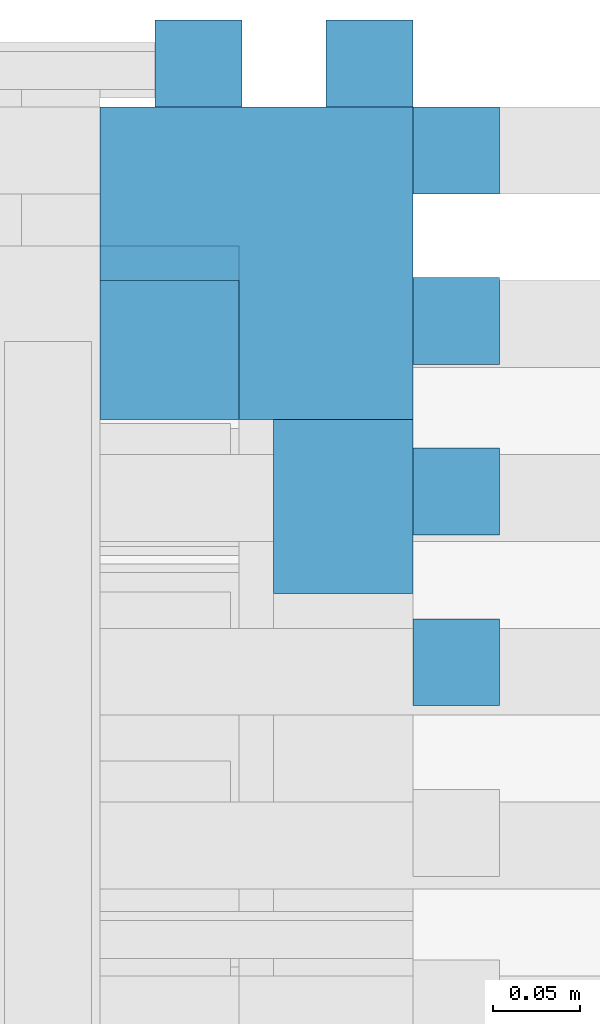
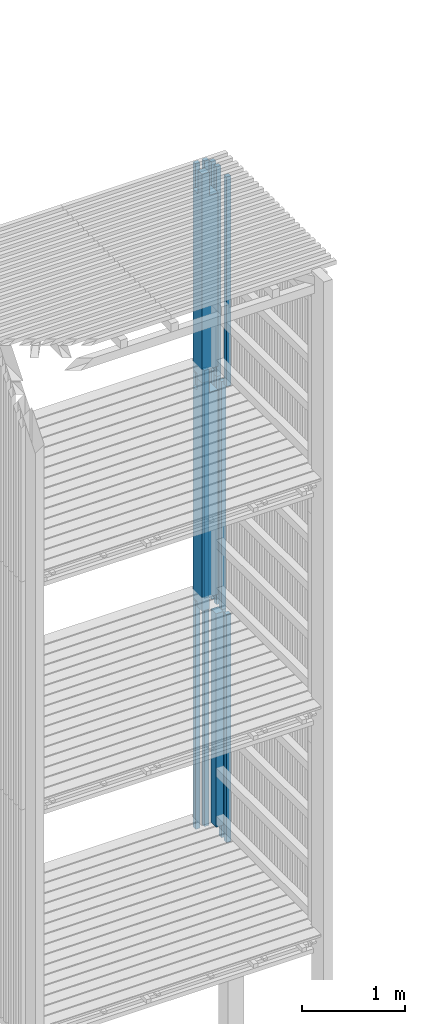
# One storey, part 159 of 182: 17 beams.
"""IFC2X3 building model written with IfcOpenShell, lengths in metres."""

from ifc_helpers import new_model, si_unit, frame, origin, place, context, project, spatial, faceted_brep, element, save


model = new_model("IFC2X3")

# Units and contexts
model_context = context("Model", 3, precision=1e-06, world=origin())
ifc_project = project(units=[si_unit("LENGTHUNIT", "METRE"), si_unit("PLANEANGLEUNIT", "RADIAN")], contexts=[model_context])

# Site, building, storey
site = spatial("IfcSite", under=ifc_project, CompositionType="ELEMENT")
building = spatial("IfcBuilding", under=site, CompositionType="ELEMENT")
storey = spatial("IfcBuildingStorey", under=building, Name="vs", CompositionType="ELEMENT", Elevation=-0.85)

# Beams
placement = place(None, origin())
beam_1_placement = place(placement, frame((36.35999999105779, 12.895077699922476, 5.274999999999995), z_axis=(0.0, -1.0, 0.0), x_axis=(0.0, 0.0, 1.0)))
element("IfcBeam", 1, at=beam_1_placement, inside=storey, Name="Bardage", context=model_context, shape_type="Brep", body=[
    faceted_brep([(2.699999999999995, 0.025000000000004, 0.025000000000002), (2.699999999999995, -0.025000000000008, 0.025000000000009), (2.699999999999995, -0.025000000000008, -0.024999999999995), (2.699999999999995, 0.02499999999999, -0.025000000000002), (1e-15, 0.025000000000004, 0.025000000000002), (2.699999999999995, 0.025000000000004, 0.025000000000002), (2.699999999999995, 0.02499999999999, -0.025000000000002), (1e-15, 0.02499999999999, -0.025000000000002), (1e-15, -0.025000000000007, 0.025000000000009), (1e-15, 0.025000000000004, 0.025000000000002), (1e-15, 0.02499999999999, -0.025000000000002), (1e-15, -0.025000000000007, -0.024999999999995), (1e-15, 0.025000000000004, 0.025000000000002), (1e-15, -0.025000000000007, 0.025000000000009), (2.699999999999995, -0.025000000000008, 0.025000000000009), (2.699999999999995, 0.025000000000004, 0.025000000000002), (1e-15, -0.025000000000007, 0.025000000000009), (1e-15, -0.025000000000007, -0.024999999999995), (2.699999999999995, -0.025000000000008, -0.024999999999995), (2.699999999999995, -0.025000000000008, 0.025000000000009), (1e-15, -0.025000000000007, -0.024999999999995), (1e-15, 0.02499999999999, -0.025000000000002), (2.699999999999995, 0.02499999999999, -0.025000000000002), (2.699999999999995, -0.025000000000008, -0.024999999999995)], [[[0, 1, 2, 3]], [[4, 5, 6, 7]], [[8, 9, 10, 11]], [[12, 13, 14, 15]], [[16, 17, 18, 19]], [[20, 21, 22, 23]]]),
])
beam_2_placement = place(placement, frame((36.40999999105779, 12.550532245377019, 7.974999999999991), z_axis=(-1.0, 0.0, 0.0), x_axis=(0.0, 0.0, 1.0)))
element("IfcBeam", 2, at=beam_2_placement, inside=storey, Name="Bardage", context=model_context, shape_type="Brep", body=[
    faceted_brep([(2.479999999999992, -0.025000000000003, 0.024999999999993), (2.479999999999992, -0.025000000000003, -0.025000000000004), (2.479999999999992, 0.024999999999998, -0.025000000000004), (2.479999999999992, 0.024999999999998, 0.024999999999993), (0.0, 0.024999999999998, 0.024999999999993), (0.0, -0.025000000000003, 0.024999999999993), (2.479999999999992, -0.025000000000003, 0.024999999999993), (2.479999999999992, 0.024999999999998, 0.024999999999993), (0.0, -0.025000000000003, 0.024999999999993), (0.0, 0.024999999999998, 0.024999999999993), (0.0, 0.024999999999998, -0.025000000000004), (0.0, -0.025000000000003, -0.025000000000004), (0.0, 0.024999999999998, -0.025000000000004), (0.0, 0.024999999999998, 0.024999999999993), (2.479999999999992, 0.024999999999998, 0.024999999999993), (2.479999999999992, 0.024999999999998, -0.025000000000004), (0.0, -0.025000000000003, -0.025000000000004), (0.0, 0.024999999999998, -0.025000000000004), (2.479999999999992, 0.024999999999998, -0.025000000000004), (2.479999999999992, -0.025000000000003, -0.025000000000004), (2.479999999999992, -0.025000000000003, 0.024999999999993), (0.0, -0.025000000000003, 0.024999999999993), (0.0, -0.025000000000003, -0.025000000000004), (2.479999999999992, -0.025000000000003, -0.025000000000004)], [[[0, 1, 2, 3]], [[4, 5, 6, 7]], [[8, 9, 10, 11]], [[12, 13, 14, 15]], [[16, 17, 18, 19]], [[20, 21, 22, 23]]]),
])
beam_3_placement = place(placement, frame((36.40999999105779, 12.648714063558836, 2.575000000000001), z_axis=(-1.0, 0.0, 0.0), x_axis=(0.0, 0.0, 1.0)))
element("IfcBeam", 3, at=beam_3_placement, inside=storey, Name="Bardage", context=model_context, shape_type="Brep", body=[
    faceted_brep([(0.0, -0.025000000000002, 0.024999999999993), (0.0, 0.024999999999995, 0.024999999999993), (0.0, 0.024999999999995, -0.025000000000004), (0.0, -0.025000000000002, -0.025000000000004), (2.699961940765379, 0.024999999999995, -0.025000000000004), (2.699961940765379, 0.024999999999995, 0.024999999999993), (2.699961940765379, -0.025000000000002, 0.024999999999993), (2.699961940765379, -0.025000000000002, -0.025000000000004), (0.0, -0.025000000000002, -0.025000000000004), (0.0, 0.024999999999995, -0.025000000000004), (2.699961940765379, 0.024999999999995, -0.025000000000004), (2.699961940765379, -0.025000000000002, -0.025000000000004), (2.699961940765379, 0.024999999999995, -0.025000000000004), (0.0, 0.024999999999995, -0.025000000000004), (0.0, 0.024999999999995, 0.024999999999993), (2.699961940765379, 0.024999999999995, 0.024999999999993), (2.699961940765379, 0.024999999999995, 0.024999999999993), (0.0, 0.024999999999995, 0.024999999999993), (0.0, -0.025000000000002, 0.024999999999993), (2.699961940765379, -0.025000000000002, 0.024999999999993), (2.699961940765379, -0.025000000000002, 0.024999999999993), (0.0, -0.025000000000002, 0.024999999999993), (0.0, -0.025000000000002, -0.025000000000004), (2.699961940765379, -0.025000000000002, -0.025000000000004)], [[[0, 1, 2, 3]], [[4, 5, 6, 7]], [[8, 9, 10, 11]], [[12, 13, 14, 15]], [[16, 17, 18, 19]], [[20, 21, 22, 23]]]),
])
beam_4_placement = place(placement, frame((36.344999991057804, 12.640077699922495, 2.746999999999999), z_axis=(0.0, -1.0, 0.0), x_axis=(0.0, 0.0, 1.0)))
element("IfcBeam", 4, at=beam_4_placement, inside=storey, Name="Support bardage", context=model_context, shape_type="Brep", body=[
    faceted_brep([(2.527961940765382, -0.039999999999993, -0.05), (2.527961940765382, 0.04000000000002, -0.05), (2.527961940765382, 0.04000000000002, 0.050000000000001), (2.527961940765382, -0.039999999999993, 0.050000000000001), (0.0, -0.039999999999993, 0.050000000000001), (0.0, -0.039999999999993, -0.05), (2.527961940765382, -0.039999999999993, -0.05), (2.527961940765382, -0.039999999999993, 0.050000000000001), (0.0, -0.039999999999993, -0.05), (0.0, -0.039999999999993, 0.050000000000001), (0.0, 0.04000000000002, 0.050000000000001), (0.0, 0.04000000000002, -0.05), (2.527961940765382, -0.039999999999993, -0.05), (0.0, -0.039999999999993, -0.05), (0.0, 0.04000000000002, -0.05), (2.527961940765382, 0.04000000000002, -0.05), (2.527961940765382, 0.04000000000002, -0.05), (0.0, 0.04000000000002, -0.05), (0.0, 0.04000000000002, 0.050000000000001), (2.527961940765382, 0.04000000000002, 0.050000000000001), (2.527961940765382, 0.04000000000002, 0.050000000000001), (0.0, 0.04000000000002, 0.050000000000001), (0.0, -0.039999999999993, 0.050000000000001), (2.527961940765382, -0.039999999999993, 0.050000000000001)], [[[0, 1, 2, 3]], [[4, 5, 6, 7]], [[8, 9, 10, 11]], [[12, 13, 14, 15]], [[16, 17, 18, 19]], [[20, 21, 22, 23]]]),
])
beam_5_placement = place(placement, frame((36.40999999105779, 12.845077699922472, 7.974999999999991), z_axis=(-1.0, 0.0, 0.0), x_axis=(0.0, 0.0, 1.0)))
element("IfcBeam", 5, at=beam_5_placement, inside=storey, Name="Bardage", context=model_context, shape_type="Brep", body=[
    faceted_brep([(2.479999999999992, -0.025000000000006, 0.024999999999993), (2.479999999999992, -0.025000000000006, -0.025000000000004), (2.479999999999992, 0.024999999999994, -0.025000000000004), (2.479999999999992, 0.024999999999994, 0.024999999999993), (0.0, 0.024999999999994, 0.024999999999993), (0.0, -0.025000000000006, 0.024999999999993), (2.479999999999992, -0.025000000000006, 0.024999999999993), (2.479999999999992, 0.024999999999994, 0.024999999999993), (0.0, -0.025000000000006, 0.024999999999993), (0.0, 0.024999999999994, 0.024999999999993), (0.0, 0.024999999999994, -0.025000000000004), (0.0, -0.025000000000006, -0.025000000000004), (0.0, 0.024999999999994, -0.025000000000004), (0.0, 0.024999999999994, 0.024999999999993), (2.479999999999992, 0.024999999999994, 0.024999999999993), (2.479999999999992, 0.024999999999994, -0.025000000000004), (0.0, -0.025000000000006, -0.025000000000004), (0.0, 0.024999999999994, -0.025000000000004), (2.479999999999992, 0.024999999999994, -0.025000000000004), (2.479999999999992, -0.025000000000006, -0.025000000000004), (2.479999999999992, -0.025000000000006, 0.024999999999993), (0.0, -0.025000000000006, 0.024999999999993), (0.0, -0.025000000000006, -0.025000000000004), (2.479999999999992, -0.025000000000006, -0.025000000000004)], [[[0, 1, 2, 3]], [[4, 5, 6, 7]], [[8, 9, 10, 11]], [[12, 13, 14, 15]], [[16, 17, 18, 19]], [[20, 21, 22, 23]]]),
])
beam_6_placement = place(placement, frame((36.261818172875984, 12.895077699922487, 7.974999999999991), z_axis=(0.0, -1.0, 0.0), x_axis=(0.0, 0.0, 1.0)))
element("IfcBeam", 6, at=beam_6_placement, inside=storey, Name="Bardage", context=model_context, shape_type="Brep", body=[
    faceted_brep([(0.0, -0.024999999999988, 0.025000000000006), (0.0, 0.025000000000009, 0.024999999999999), (0.0, 0.024999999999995, -0.025000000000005), (0.0, -0.025000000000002, -0.024999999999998), (2.479999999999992, 0.024999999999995, -0.025000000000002), (2.479999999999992, 0.025000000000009, 0.024999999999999), (2.479999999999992, -0.024999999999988, 0.025000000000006), (2.479999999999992, -0.025000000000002, -0.024999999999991), (0.0, 0.025000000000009, 0.024999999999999), (0.0, -0.024999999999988, 0.025000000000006), (2.479999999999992, -0.024999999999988, 0.025000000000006), (2.479999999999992, 0.025000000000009, 0.024999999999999), (0.0, 0.024999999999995, -0.025000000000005), (0.0, 0.025000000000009, 0.024999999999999), (2.479999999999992, 0.025000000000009, 0.024999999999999), (2.479999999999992, 0.024999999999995, -0.025000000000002), (0.0, -0.025000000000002, -0.024999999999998), (0.0, 0.024999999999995, -0.025000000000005), (2.479999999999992, 0.024999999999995, -0.025000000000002), (2.479999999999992, -0.025000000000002, -0.024999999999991), (2.479999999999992, -0.024999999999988, 0.025000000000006), (0.0, -0.024999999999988, 0.025000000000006), (0.0, -0.025000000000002, -0.024999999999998), (2.479999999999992, -0.025000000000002, -0.024999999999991)], [[[0, 1, 2, 3]], [[4, 5, 6, 7]], [[8, 9, 10, 11]], [[12, 13, 14, 15]], [[16, 17, 18, 19]], [[20, 21, 22, 23]]]),
])
beam_7_placement = place(placement, frame((36.40999999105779, 12.74689588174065, 5.274999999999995), z_axis=(-1.0, 0.0, 0.0), x_axis=(0.0, 0.0, 1.0)))
element("IfcBeam", 7, at=beam_7_placement, inside=storey, Name="Bardage", context=model_context, shape_type="Brep", body=[
    faceted_brep([(1e-15, -0.025000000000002, 0.024999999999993), (1e-15, 0.024999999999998, 0.024999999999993), (1e-15, 0.024999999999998, -0.025000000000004), (1e-15, -0.025000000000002, -0.025000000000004), (2.699999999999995, -0.025000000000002, -0.025000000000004), (2.699999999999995, 0.025000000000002, -0.025000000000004), (2.699999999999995, 0.025000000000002, 0.024999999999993), (2.699999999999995, -0.025000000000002, 0.024999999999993), (1e-15, -0.025000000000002, 0.024999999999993), (1e-15, -0.025000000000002, -0.025000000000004), (2.699999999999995, -0.025000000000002, -0.025000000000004), (2.699999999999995, -0.025000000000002, 0.024999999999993), (2.699999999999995, -0.025000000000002, -0.025000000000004), (1e-15, -0.025000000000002, -0.025000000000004), (1e-15, 0.024999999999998, -0.025000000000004), (2.699999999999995, 0.025000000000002, -0.025000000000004), (2.699999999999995, 0.025000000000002, -0.025000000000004), (1e-15, 0.024999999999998, -0.025000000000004), (1e-15, 0.024999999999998, 0.024999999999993), (2.699999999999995, 0.025000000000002, 0.024999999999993), (2.699999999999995, 0.025000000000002, 0.024999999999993), (1e-15, 0.024999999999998, 0.024999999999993), (1e-15, -0.025000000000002, 0.024999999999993), (2.699999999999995, -0.025000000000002, 0.024999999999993)], [[[0, 1, 2, 3]], [[4, 5, 6, 7]], [[8, 9, 10, 11]], [[12, 13, 14, 15]], [[16, 17, 18, 19]], [[20, 21, 22, 23]]]),
])
beam_8_placement = place(placement, frame((36.35999999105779, 12.895077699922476, 2.575000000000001), z_axis=(0.0, -1.0, 0.0), x_axis=(0.0, 0.0, 1.0)))
element("IfcBeam", 8, at=beam_8_placement, inside=storey, Name="Bardage", context=model_context, shape_type="Brep", body=[
    faceted_brep([(2.699961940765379, -0.025000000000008, 0.025000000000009), (2.699961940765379, -0.025000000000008, -0.024999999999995), (2.699961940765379, 0.02499999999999, -0.025000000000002), (2.699961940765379, 0.025000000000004, 0.025000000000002), (0.0, -0.025000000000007, 0.025000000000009), (2.699961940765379, -0.025000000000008, 0.025000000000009), (2.699961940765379, 0.025000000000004, 0.025000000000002), (0.0, 0.025000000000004, 0.025000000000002), (0.0, -0.025000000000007, 0.025000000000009), (0.0, 0.025000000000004, 0.025000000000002), (0.0, 0.02499999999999, -0.025000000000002), (0.0, -0.025000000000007, -0.024999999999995), (0.0, -0.025000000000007, 0.025000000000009), (0.0, -0.025000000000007, -0.024999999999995), (2.699961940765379, -0.025000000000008, -0.024999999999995), (2.699961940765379, -0.025000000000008, 0.025000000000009), (0.0, -0.025000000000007, -0.024999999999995), (0.0, 0.02499999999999, -0.025000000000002), (2.699961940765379, 0.02499999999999, -0.025000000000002), (2.699961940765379, -0.025000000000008, -0.024999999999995), (0.0, 0.02499999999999, -0.025000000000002), (0.0, 0.025000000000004, 0.025000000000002), (2.699961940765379, 0.025000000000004, 0.025000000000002), (2.699961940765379, 0.02499999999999, -0.025000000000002)], [[[0, 1, 2, 3]], [[4, 5, 6, 7]], [[8, 9, 10, 11]], [[12, 13, 14, 15]], [[16, 17, 18, 19]], [[20, 21, 22, 23]]]),
])
beam_9_placement = place(placement, frame((36.40999999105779, 12.845077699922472, 5.274999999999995), z_axis=(-1.0, 0.0, 0.0), x_axis=(0.0, 0.0, 1.0)))
element("IfcBeam", 9, at=beam_9_placement, inside=storey, Name="Bardage", context=model_context, shape_type="Brep", body=[
    faceted_brep([(1e-15, -0.025000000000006, 0.024999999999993), (1e-15, 0.024999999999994, 0.024999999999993), (1e-15, 0.024999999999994, -0.025000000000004), (1e-15, -0.025000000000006, -0.025000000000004), (2.699999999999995, -0.025000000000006, -0.025000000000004), (2.699999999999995, 0.024999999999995, -0.025000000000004), (2.699999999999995, 0.024999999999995, 0.024999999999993), (2.699999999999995, -0.025000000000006, 0.024999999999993), (1e-15, -0.025000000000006, 0.024999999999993), (1e-15, -0.025000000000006, -0.025000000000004), (2.699999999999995, -0.025000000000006, -0.025000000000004), (2.699999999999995, -0.025000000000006, 0.024999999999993), (2.699999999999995, -0.025000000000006, -0.025000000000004), (1e-15, -0.025000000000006, -0.025000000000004), (1e-15, 0.024999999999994, -0.025000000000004), (2.699999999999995, 0.024999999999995, -0.025000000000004), (2.699999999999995, 0.024999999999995, -0.025000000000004), (1e-15, 0.024999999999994, -0.025000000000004), (1e-15, 0.024999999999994, 0.024999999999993), (2.699999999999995, 0.024999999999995, 0.024999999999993), (2.699999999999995, 0.024999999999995, 0.024999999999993), (1e-15, 0.024999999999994, 0.024999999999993), (1e-15, -0.025000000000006, 0.024999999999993), (2.699999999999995, -0.025000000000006, 0.024999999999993)], [[[0, 1, 2, 3]], [[4, 5, 6, 7]], [[8, 9, 10, 11]], [[12, 13, 14, 15]], [[16, 17, 18, 19]], [[20, 21, 22, 23]]]),
])
beam_10_placement = place(placement, frame((36.40999999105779, 12.74689588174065, 7.974999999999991), z_axis=(-1.0, 0.0, 0.0), x_axis=(0.0, 0.0, 1.0)))
element("IfcBeam", 10, at=beam_10_placement, inside=storey, Name="Bardage", context=model_context, shape_type="Brep", body=[
    faceted_brep([(2.479999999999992, -0.025000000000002, 0.024999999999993), (2.479999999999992, -0.025000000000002, -0.025000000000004), (2.479999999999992, 0.025000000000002, -0.025000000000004), (2.479999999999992, 0.025000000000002, 0.024999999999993), (0.0, 0.024999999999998, 0.024999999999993), (0.0, -0.025000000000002, 0.024999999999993), (2.479999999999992, -0.025000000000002, 0.024999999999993), (2.479999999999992, 0.025000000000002, 0.024999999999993), (0.0, -0.025000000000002, 0.024999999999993), (0.0, 0.024999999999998, 0.024999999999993), (0.0, 0.024999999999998, -0.025000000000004), (0.0, -0.025000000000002, -0.025000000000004), (0.0, 0.024999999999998, -0.025000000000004), (0.0, 0.024999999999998, 0.024999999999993), (2.479999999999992, 0.025000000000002, 0.024999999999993), (2.479999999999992, 0.025000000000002, -0.025000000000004), (0.0, -0.025000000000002, -0.025000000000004), (0.0, 0.024999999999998, -0.025000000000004), (2.479999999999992, 0.025000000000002, -0.025000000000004), (2.479999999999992, -0.025000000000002, -0.025000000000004), (2.479999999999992, -0.025000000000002, 0.024999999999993), (0.0, -0.025000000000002, 0.024999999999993), (0.0, -0.025000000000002, -0.025000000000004), (2.479999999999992, -0.025000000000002, -0.025000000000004)], [[[0, 1, 2, 3]], [[4, 5, 6, 7]], [[8, 9, 10, 11]], [[12, 13, 14, 15]], [[16, 17, 18, 19]], [[20, 21, 22, 23]]]),
])
beam_11_placement = place(placement, frame((36.261818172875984, 12.895077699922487, 5.274999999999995), z_axis=(0.0, -1.0, 0.0), x_axis=(0.0, 0.0, 1.0)))
element("IfcBeam", 11, at=beam_11_placement, inside=storey, Name="Bardage", context=model_context, shape_type="Brep", body=[
    faceted_brep([(2.699999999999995, 0.025000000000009, 0.024999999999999), (2.699999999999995, -0.024999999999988, 0.025000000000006), (2.699999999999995, -0.025000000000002, -0.024999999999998), (2.699999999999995, 0.024999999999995, -0.025000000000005), (1e-15, 0.025000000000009, 0.024999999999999), (2.699999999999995, 0.025000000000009, 0.024999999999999), (2.699999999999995, 0.024999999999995, -0.025000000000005), (1e-15, 0.024999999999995, -0.025000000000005), (1e-15, -0.024999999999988, 0.025000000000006), (1e-15, 0.025000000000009, 0.024999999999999), (1e-15, 0.024999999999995, -0.025000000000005), (1e-15, -0.025000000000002, -0.024999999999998), (1e-15, 0.025000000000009, 0.024999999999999), (1e-15, -0.024999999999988, 0.025000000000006), (2.699999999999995, -0.024999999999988, 0.025000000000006), (2.699999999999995, 0.025000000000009, 0.024999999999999), (1e-15, -0.024999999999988, 0.025000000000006), (1e-15, -0.025000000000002, -0.024999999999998), (2.699999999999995, -0.025000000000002, -0.024999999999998), (2.699999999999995, -0.024999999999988, 0.025000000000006), (1e-15, -0.025000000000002, -0.024999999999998), (1e-15, 0.024999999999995, -0.025000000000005), (2.699999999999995, 0.024999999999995, -0.025000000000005), (2.699999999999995, -0.025000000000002, -0.024999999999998)], [[[0, 1, 2, 3]], [[4, 5, 6, 7]], [[8, 9, 10, 11]], [[12, 13, 14, 15]], [[16, 17, 18, 19]], [[20, 21, 22, 23]]]),
])
beam_12_placement = place(placement, frame((36.29499999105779, 12.78007769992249, 5.279999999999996), z_axis=(0.0, -1.0, 0.0), x_axis=(0.0, 0.0, 1.0)))
element("IfcBeam", 12, at=beam_12_placement, inside=storey, Name="Poteau", context=model_context, shape_type="Brep", body=[
    faceted_brep([(0.139999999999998, -0.09, 0.089999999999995), (0.139999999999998, 0.009999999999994, 0.089999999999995), (0.139999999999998, 0.009999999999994, -0.090000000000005), (0.139999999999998, -0.09, -0.090000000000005), (0.059999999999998, 0.090000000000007, -0.010000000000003), (0.059999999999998, 0.009999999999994, -0.009999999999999), (-1e-15, 0.009999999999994, -0.009999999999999), (-1e-15, 0.090000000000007, -0.009999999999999), (-1e-15, 0.090000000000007, 0.089999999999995), (-1e-15, 0.090000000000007, -0.009999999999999), (-1e-15, 0.009999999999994, -0.009999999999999), (-1e-15, 0.009999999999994, 0.089999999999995), (0.139999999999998, 0.009999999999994, -0.090000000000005), (0.139999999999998, 0.009999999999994, 0.089999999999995), (-1e-15, 0.009999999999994, 0.089999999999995), (-1e-15, 0.009999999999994, -0.009999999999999), (0.059999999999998, 0.009999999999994, -0.009999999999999), (0.059999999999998, 0.009999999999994, -0.090000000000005), (0.059999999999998, 0.009999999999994, -0.090000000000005), (0.059999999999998, 0.009999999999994, -0.009999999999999), (0.059999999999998, 0.090000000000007, -0.010000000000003), (0.059999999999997, 0.090000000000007, -0.090000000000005), (0.139999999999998, -0.09, -0.090000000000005), (0.139999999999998, 0.009999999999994, -0.090000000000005), (0.059999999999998, 0.009999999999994, -0.090000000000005), (0.059999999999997, 0.090000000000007, -0.090000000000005), (2.559999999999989, 0.090000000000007, -0.090000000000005), (2.559999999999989, -0.09, -0.090000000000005), (2.559999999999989, -0.09, 0.089999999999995), (0.139999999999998, -0.09, 0.089999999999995), (0.139999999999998, -0.09, -0.090000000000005), (2.559999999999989, -0.09, -0.090000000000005), (2.559999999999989, 0.090000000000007, -0.010000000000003), (2.559999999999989, 0.090000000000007, -0.090000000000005), (0.059999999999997, 0.090000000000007, -0.090000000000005), (0.059999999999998, 0.090000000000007, -0.010000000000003), (-1e-15, 0.090000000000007, -0.009999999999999), (-1e-15, 0.090000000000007, 0.089999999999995), (2.69999999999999, 0.090000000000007, 0.089999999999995), (2.69999999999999, 0.090000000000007, -0.009999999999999), (2.69999999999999, 0.009999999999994, 0.089999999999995), (2.69999999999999, 0.090000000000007, 0.089999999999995), (-1e-15, 0.090000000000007, 0.089999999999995), (-1e-15, 0.009999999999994, 0.089999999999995), (0.139999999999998, 0.009999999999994, 0.089999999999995), (0.139999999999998, -0.09, 0.089999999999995), (2.559999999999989, -0.09, 0.089999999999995), (2.559999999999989, 0.009999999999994, 0.089999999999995), (2.559999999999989, 0.090000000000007, -0.010000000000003), (2.69999999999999, 0.090000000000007, -0.009999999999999), (2.69999999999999, 0.009999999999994, -0.010000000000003), (2.559999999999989, 0.009999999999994, -0.010000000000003), (2.559999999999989, 0.009999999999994, 0.089999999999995), (2.559999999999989, -0.09, 0.089999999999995), (2.559999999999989, -0.09, -0.090000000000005), (2.559999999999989, 0.090000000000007, -0.090000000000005), (2.559999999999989, 0.090000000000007, -0.010000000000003), (2.559999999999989, 0.009999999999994, -0.010000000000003), (2.69999999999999, 0.009999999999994, 0.089999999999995), (2.559999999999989, 0.009999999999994, 0.089999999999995), (2.559999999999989, 0.009999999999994, -0.010000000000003), (2.69999999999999, 0.009999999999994, -0.010000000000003), (2.69999999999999, 0.090000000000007, 0.089999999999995), (2.69999999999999, 0.009999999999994, 0.089999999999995), (2.69999999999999, 0.009999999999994, -0.010000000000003), (2.69999999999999, 0.090000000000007, -0.009999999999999)], [[[0, 1, 2, 3]], [[4, 5, 6, 7]], [[8, 9, 10, 11]], [[12, 13, 14, 15, 16, 17]], [[18, 19, 20, 21]], [[22, 23, 24, 25, 26, 27]], [[28, 29, 30, 31]], [[32, 33, 34, 35, 36, 37, 38, 39]], [[40, 41, 42, 43, 44, 45, 46, 47]], [[48, 49, 50, 51]], [[52, 53, 54, 55, 56, 57]], [[58, 59, 60, 61]], [[62, 63, 64, 65]]]),
])
beam_13_placement = place(placement, frame((36.35999999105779, 12.895077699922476, 7.974999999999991), z_axis=(0.0, -1.0, 0.0), x_axis=(0.0, 0.0, 1.0)))
element("IfcBeam", 13, at=beam_13_placement, inside=storey, Name="Bardage", context=model_context, shape_type="Brep", body=[
    faceted_brep([(0.0, -0.025000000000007, 0.025000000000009), (0.0, 0.025000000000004, 0.025000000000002), (0.0, 0.02499999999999, -0.025000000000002), (0.0, -0.025000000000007, -0.024999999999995), (2.479999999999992, 0.02499999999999, -0.024999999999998), (2.479999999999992, 0.025000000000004, 0.024999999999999), (2.479999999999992, -0.025000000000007, 0.025000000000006), (2.479999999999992, -0.025000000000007, -0.024999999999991), (0.0, 0.025000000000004, 0.025000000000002), (0.0, -0.025000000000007, 0.025000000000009), (2.479999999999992, -0.025000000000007, 0.025000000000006), (2.479999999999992, 0.025000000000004, 0.024999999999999), (0.0, 0.02499999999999, -0.025000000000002), (0.0, 0.025000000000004, 0.025000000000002), (2.479999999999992, 0.025000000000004, 0.024999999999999), (2.479999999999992, 0.02499999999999, -0.024999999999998), (0.0, -0.025000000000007, -0.024999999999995), (0.0, 0.02499999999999, -0.025000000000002), (2.479999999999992, 0.02499999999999, -0.024999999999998), (2.479999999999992, -0.025000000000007, -0.024999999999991), (2.479999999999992, -0.025000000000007, 0.025000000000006), (0.0, -0.025000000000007, 0.025000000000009), (0.0, -0.025000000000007, -0.024999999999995), (2.479999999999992, -0.025000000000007, -0.024999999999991)], [[[0, 1, 2, 3]], [[4, 5, 6, 7]], [[8, 9, 10, 11]], [[12, 13, 14, 15]], [[16, 17, 18, 19]], [[20, 21, 22, 23]]]),
])
beam_14_placement = place(placement, frame((36.40999999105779, 12.550532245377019, 2.575000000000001), z_axis=(-1.0, 0.0, 0.0), x_axis=(0.0, 0.0, 1.0)))
element("IfcBeam", 14, at=beam_14_placement, inside=storey, Name="Bardage", context=model_context, shape_type="Brep", body=[
    faceted_brep([(0.0, -0.025000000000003, 0.024999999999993), (0.0, 0.024999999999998, 0.024999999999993), (0.0, 0.024999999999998, -0.025000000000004), (0.0, -0.025000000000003, -0.025000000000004), (2.699961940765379, 0.024999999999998, -0.025000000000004), (2.699961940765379, 0.024999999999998, 0.024999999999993), (2.699961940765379, -0.025000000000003, 0.024999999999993), (2.699961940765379, -0.025000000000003, -0.025000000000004), (0.0, -0.025000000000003, -0.025000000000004), (0.0, 0.024999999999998, -0.025000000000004), (2.699961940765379, 0.024999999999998, -0.025000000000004), (2.699961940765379, -0.025000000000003, -0.025000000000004), (2.699961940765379, 0.024999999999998, -0.025000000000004), (0.0, 0.024999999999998, -0.025000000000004), (0.0, 0.024999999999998, 0.024999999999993), (2.699961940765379, 0.024999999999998, 0.024999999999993), (2.699961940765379, 0.024999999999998, 0.024999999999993), (0.0, 0.024999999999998, 0.024999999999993), (0.0, -0.025000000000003, 0.024999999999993), (2.699961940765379, -0.025000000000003, 0.024999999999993), (2.699961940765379, -0.025000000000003, 0.024999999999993), (0.0, -0.025000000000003, 0.024999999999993), (0.0, -0.025000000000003, -0.025000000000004), (2.699961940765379, -0.025000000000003, -0.025000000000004)], [[[0, 1, 2, 3]], [[4, 5, 6, 7]], [[8, 9, 10, 11]], [[12, 13, 14, 15]], [[16, 17, 18, 19]], [[20, 21, 22, 23]]]),
])
beam_15_placement = place(placement, frame((36.40999999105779, 12.648714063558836, 5.274999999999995), z_axis=(-1.0, 0.0, 0.0), x_axis=(0.0, 0.0, 1.0)))
element("IfcBeam", 15, at=beam_15_placement, inside=storey, Name="Bardage", context=model_context, shape_type="Brep", body=[
    faceted_brep([(1e-15, -0.025000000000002, 0.024999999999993), (1e-15, 0.024999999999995, 0.024999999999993), (1e-15, 0.024999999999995, -0.025000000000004), (1e-15, -0.025000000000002, -0.025000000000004), (2.699999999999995, -0.025000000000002, -0.025000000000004), (2.699999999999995, 0.024999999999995, -0.025000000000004), (2.699999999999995, 0.024999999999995, 0.024999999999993), (2.699999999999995, -0.025000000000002, 0.024999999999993), (1e-15, -0.025000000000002, 0.024999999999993), (1e-15, -0.025000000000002, -0.025000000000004), (2.699999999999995, -0.025000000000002, -0.025000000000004), (2.699999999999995, -0.025000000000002, 0.024999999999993), (2.699999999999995, -0.025000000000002, -0.025000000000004), (1e-15, -0.025000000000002, -0.025000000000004), (1e-15, 0.024999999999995, -0.025000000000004), (2.699999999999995, 0.024999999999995, -0.025000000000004), (2.699999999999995, 0.024999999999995, -0.025000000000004), (1e-15, 0.024999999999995, -0.025000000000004), (1e-15, 0.024999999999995, 0.024999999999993), (2.699999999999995, 0.024999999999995, 0.024999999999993), (2.699999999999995, 0.024999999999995, 0.024999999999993), (1e-15, 0.024999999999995, 0.024999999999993), (1e-15, -0.025000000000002, 0.024999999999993), (2.699999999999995, -0.025000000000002, 0.024999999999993)], [[[0, 1, 2, 3]], [[4, 5, 6, 7]], [[8, 9, 10, 11]], [[12, 13, 14, 15]], [[16, 17, 18, 19]], [[20, 21, 22, 23]]]),
])
beam_16_placement = place(placement, frame((36.261818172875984, 12.895077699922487, 2.575000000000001), z_axis=(0.0, -1.0, 0.0), x_axis=(0.0, 0.0, 1.0)))
element("IfcBeam", 16, at=beam_16_placement, inside=storey, Name="Bardage", context=model_context, shape_type="Brep", body=[
    faceted_brep([(2.699961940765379, -0.024999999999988, 0.025000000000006), (2.699961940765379, -0.025000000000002, -0.024999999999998), (2.699961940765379, 0.024999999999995, -0.025000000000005), (2.699961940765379, 0.025000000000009, 0.024999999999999), (0.0, -0.024999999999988, 0.025000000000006), (2.699961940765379, -0.024999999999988, 0.025000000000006), (2.699961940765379, 0.025000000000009, 0.024999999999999), (0.0, 0.025000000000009, 0.024999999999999), (0.0, -0.024999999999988, 0.025000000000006), (0.0, 0.025000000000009, 0.024999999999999), (0.0, 0.024999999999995, -0.025000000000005), (0.0, -0.025000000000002, -0.024999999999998), (0.0, -0.024999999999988, 0.025000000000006), (0.0, -0.025000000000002, -0.024999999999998), (2.699961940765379, -0.025000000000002, -0.024999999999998), (2.699961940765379, -0.024999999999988, 0.025000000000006), (0.0, -0.025000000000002, -0.024999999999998), (0.0, 0.024999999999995, -0.025000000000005), (2.699961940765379, 0.024999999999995, -0.025000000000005), (2.699961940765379, -0.025000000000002, -0.024999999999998), (0.0, 0.024999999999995, -0.025000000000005), (0.0, 0.025000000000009, 0.024999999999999), (2.699961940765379, 0.025000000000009, 0.024999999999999), (2.699961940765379, 0.024999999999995, -0.025000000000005)], [[[0, 1, 2, 3]], [[4, 5, 6, 7]], [[8, 9, 10, 11]], [[12, 13, 14, 15]], [[16, 17, 18, 19]], [[20, 21, 22, 23]]]),
])
beam_17_placement = place(placement, frame((36.29499999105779, 12.78007769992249, 7.979999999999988), z_axis=(0.0, -1.0, 0.0), x_axis=(0.0, 0.0, 1.0)))
element("IfcBeam", 17, at=beam_17_placement, inside=storey, Name="Poteau", context=model_context, shape_type="Brep", body=[
    faceted_brep([(2.474999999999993, 0.009999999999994, 0.089999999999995), (2.474999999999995, 0.009999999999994, 0.009999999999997), (2.474999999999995, 0.090000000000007, 0.009999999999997), (2.474999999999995, 0.090000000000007, 0.089999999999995), (2.194999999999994, 0.009999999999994, 0.089999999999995), (2.194999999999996, 0.009999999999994, 0.009999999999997), (2.474999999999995, 0.009999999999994, 0.009999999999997), (2.474999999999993, 0.009999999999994, 0.089999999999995), (2.194999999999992, -0.09, 0.089999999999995), (2.194999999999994, -0.09, -0.090000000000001), (2.194999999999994, 0.090000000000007, -0.090000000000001), (2.194999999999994, 0.090000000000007, 0.009999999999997), (2.194999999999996, 0.009999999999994, 0.009999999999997), (2.194999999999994, 0.009999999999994, 0.089999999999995), (2.474999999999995, 0.090000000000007, 0.009999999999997), (2.474999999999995, 0.009999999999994, 0.009999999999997), (2.194999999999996, 0.009999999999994, 0.009999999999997), (2.194999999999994, 0.090000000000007, 0.009999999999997), (0.059999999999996, 0.090000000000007, -0.010000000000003), (-1e-15, 0.090000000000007, -0.010000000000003), (-1e-15, 0.090000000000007, 0.089999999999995), (2.474999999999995, 0.090000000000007, 0.089999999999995), (2.474999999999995, 0.090000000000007, 0.009999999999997), (2.194999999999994, 0.090000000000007, 0.009999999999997), (2.194999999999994, 0.090000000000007, -0.090000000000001), (0.059999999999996, 0.090000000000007, -0.090000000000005), (0.139999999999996, -0.09, 0.089999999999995), (0.139999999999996, 0.009999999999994, 0.089999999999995), (0.139999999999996, 0.009999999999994, -0.090000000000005), (0.139999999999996, -0.09, -0.090000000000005), (-1e-15, 0.090000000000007, -0.010000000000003), (0.059999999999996, 0.090000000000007, -0.010000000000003), (0.059999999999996, 0.009999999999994, -0.009999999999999), (-1e-15, 0.009999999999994, -0.010000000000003), (-1e-15, 0.090000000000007, 0.089999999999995), (-1e-15, 0.090000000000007, -0.010000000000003), (-1e-15, 0.009999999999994, -0.010000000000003), (-1e-15, 0.009999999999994, 0.089999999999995), (0.139999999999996, 0.009999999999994, -0.090000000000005), (0.139999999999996, 0.009999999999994, 0.089999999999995), (-1e-15, 0.009999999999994, 0.089999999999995), (-1e-15, 0.009999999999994, -0.010000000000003), (0.059999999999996, 0.009999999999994, -0.009999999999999), (0.059999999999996, 0.009999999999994, -0.090000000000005), (0.059999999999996, 0.009999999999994, -0.090000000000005), (0.059999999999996, 0.009999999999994, -0.009999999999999), (0.059999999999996, 0.090000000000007, -0.010000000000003), (0.059999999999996, 0.090000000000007, -0.090000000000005), (0.139999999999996, -0.09, -0.090000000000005), (0.139999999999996, 0.009999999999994, -0.090000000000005), (0.059999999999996, 0.009999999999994, -0.090000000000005), (0.059999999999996, 0.090000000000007, -0.090000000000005), (2.194999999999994, 0.090000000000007, -0.090000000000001), (2.194999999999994, -0.09, -0.090000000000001), (2.194999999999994, -0.09, -0.090000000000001), (2.194999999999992, -0.09, 0.089999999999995), (0.139999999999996, -0.09, 0.089999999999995), (0.139999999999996, -0.09, -0.090000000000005), (-1e-15, 0.090000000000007, 0.089999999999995), (-1e-15, 0.009999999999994, 0.089999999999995), (0.139999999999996, 0.009999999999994, 0.089999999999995), (0.139999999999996, -0.09, 0.089999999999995), (2.194999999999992, -0.09, 0.089999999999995), (2.194999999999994, 0.009999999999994, 0.089999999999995), (2.474999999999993, 0.009999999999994, 0.089999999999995), (2.474999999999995, 0.090000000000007, 0.089999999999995)], [[[0, 1, 2, 3]], [[4, 5, 6, 7]], [[8, 9, 10, 11, 12, 13]], [[14, 15, 16, 17]], [[18, 19, 20, 21, 22, 23, 24, 25]], [[26, 27, 28, 29]], [[30, 31, 32, 33]], [[34, 35, 36, 37]], [[38, 39, 40, 41, 42, 43]], [[44, 45, 46, 47]], [[48, 49, 50, 51, 52, 53]], [[54, 55, 56, 57]], [[58, 59, 60, 61, 62, 63, 64, 65]]]),
])

save(model, "model.ifc")
